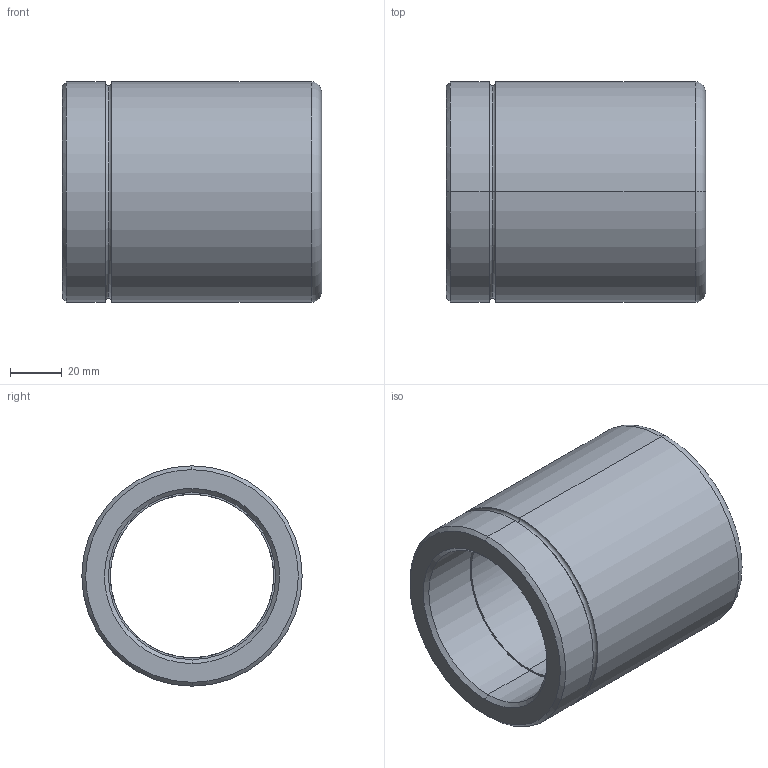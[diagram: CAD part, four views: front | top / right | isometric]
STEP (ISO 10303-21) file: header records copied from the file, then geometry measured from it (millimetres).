
FILE_DESCRIPTION(('CATIA V5 STEP Exchange'),'2;1');
FILE_NAME('C:\Users\Utente\Desktop\IO LAVORO\3D X SITO CF\X SITO\3D files 347\347-63 x 100.stp','2021-01-01T09:43:03+00:00',('none'),('none'),'CATIA Version 5 Release 20 GA (IN-10)','CATIA V5 STEP AP203','none');
FILE_SCHEMA(('CONFIG_CONTROL_DESIGN'));
Length unit declared in the file: millimetre
Products named in the file (1): 347-63 x 100
Bounding box: 100 x 85 x 85 mm (x, y, z)
Volume: 249129.6 mm3; surface area: 51630.4 mm2
Topology: 1 solids, 1 shells, 29 faces, 86 edges, 60 vertices
Faces by surface type: torus 12, cylinder 10, cone 4, plane 3
Entity records: 1154 total; most frequent: CARTESIAN_POINT 344, ORIENTED_EDGE 172, DIRECTION 132, AXIS2_PLACEMENT_3D 90, EDGE_CURVE 86, CIRCLE 60, VERTEX_POINT 60, EDGE_LOOP 32
